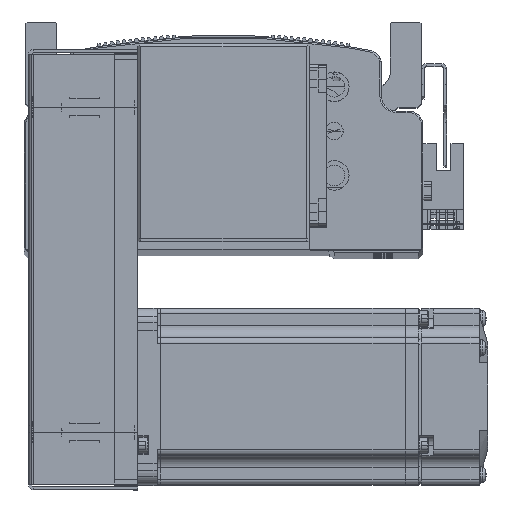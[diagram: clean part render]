
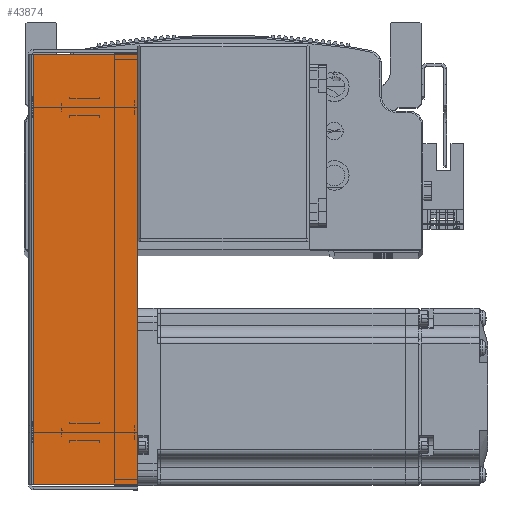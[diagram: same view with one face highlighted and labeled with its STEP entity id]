
A CAD part, top view. The second image highlights one B-rep face of the part: STEP entity #43874.
In plain terms, the highlighted planar face has unit normal (0, 0, 1) as drawn and (0, 0, -1) by its records, which use the part's own axes.
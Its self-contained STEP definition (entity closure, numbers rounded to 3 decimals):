
#4970 = FACE_OUTER_BOUND ( 'NONE', #31047, .T. ) ;
#9292 = VERTEX_POINT ( 'NONE', #26371 ) ;
#9338 = VERTEX_POINT ( 'NONE', #26419 ) ;
#9367 = VERTEX_POINT ( 'NONE', #26535 ) ;
#9390 = VERTEX_POINT ( 'NONE', #26528 ) ;
#13393 = AXIS2_PLACEMENT_3D ( 'NONE', #43193, #43144, #43156 ) ;
#26371 = CARTESIAN_POINT ( 'NONE',  ( 72.793, 0.737, -34.5 ) ) ;
#26419 = CARTESIAN_POINT ( 'NONE',  ( -72.793, 36., -34.5 ) ) ;
#26528 = CARTESIAN_POINT ( 'NONE',  ( 72.793, 36., -34.5 ) ) ;
#26535 = CARTESIAN_POINT ( 'NONE',  ( -72.793, 0.737, -34.5 ) ) ;
#29323 = LINE ( 'NONE', #53395, #29325 ) ;
#29325 = VECTOR ( 'NONE', #53421, 1000. ) ;
#29328 = LINE ( 'NONE', #53418, #29352 ) ;
#29352 = VECTOR ( 'NONE', #53392, 1000. ) ;
#29431 = LINE ( 'NONE', #53562, #29437 ) ;
#29437 = VECTOR ( 'NONE', #53546, 1000. ) ;
#29480 = VECTOR ( 'NONE', #53617, 1000. ) ;
#29488 = LINE ( 'NONE', #53589, #29480 ) ;
#31047 = EDGE_LOOP ( 'NONE', ( #64566, #64526, #64528, #64553 ) ) ;
#43144 = DIRECTION ( 'NONE',  ( 0., 0., 1. ) ) ;
#43156 = DIRECTION ( 'NONE',  ( 0., -1., 0. ) ) ;
#43180 = PLANE ( 'NONE',  #13393 ) ;
#43193 = CARTESIAN_POINT ( 'NONE',  ( 0., 0., -34.5 ) ) ;
#43874 = ADVANCED_FACE ( 'NONE', ( #4970 ), #43180, .F. ) ;
#53392 = DIRECTION ( 'NONE',  ( 1., 0., 0. ) ) ;
#53395 = CARTESIAN_POINT ( 'NONE',  ( 72.793, 0., -34.5 ) ) ;
#53418 = CARTESIAN_POINT ( 'NONE',  ( 74.5, 0.737, -34.5 ) ) ;
#53421 = DIRECTION ( 'NONE',  ( 0., 1., 0. ) ) ;
#53546 = DIRECTION ( 'NONE',  ( 1., 0., 0. ) ) ;
#53562 = CARTESIAN_POINT ( 'NONE',  ( 0., 36., -34.5 ) ) ;
#53589 = CARTESIAN_POINT ( 'NONE',  ( -72.793, 0., -34.5 ) ) ;
#53617 = DIRECTION ( 'NONE',  ( 0., 1., 0. ) ) ;
#64526 = ORIENTED_EDGE ( 'NONE', *, *, #86052, .T. ) ;
#64528 = ORIENTED_EDGE ( 'NONE', *, *, #86034, .T. ) ;
#64553 = ORIENTED_EDGE ( 'NONE', *, *, #85989, .F. ) ;
#64566 = ORIENTED_EDGE ( 'NONE', *, *, #85987, .F. ) ;
#85987 = EDGE_CURVE ( 'NONE', #9367, #9292, #29328, .T. ) ;
#85989 = EDGE_CURVE ( 'NONE', #9292, #9390, #29323, .T. ) ;
#86034 = EDGE_CURVE ( 'NONE', #9338, #9390, #29431, .T. ) ;
#86052 = EDGE_CURVE ( 'NONE', #9367, #9338, #29488, .T. ) ;
